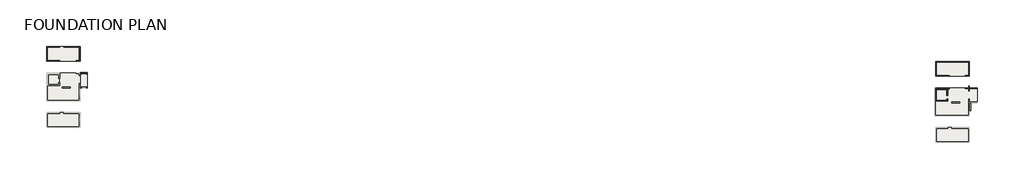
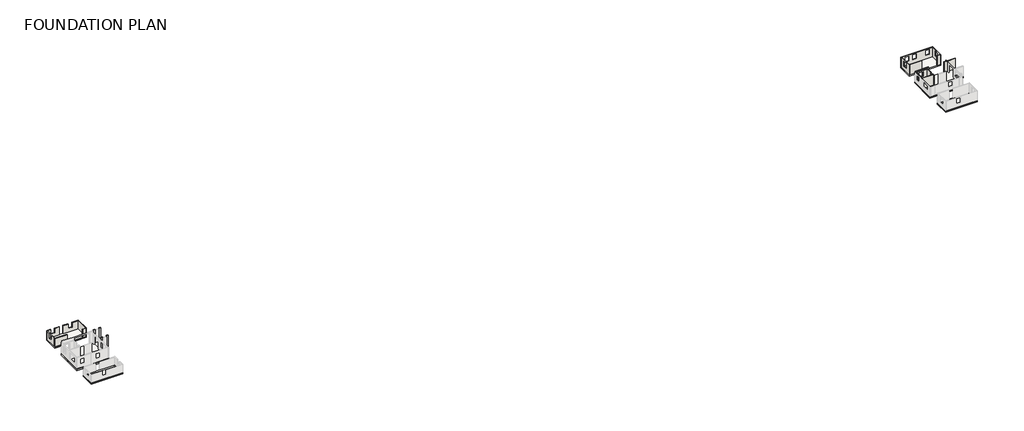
# One storey, part 2 of 2: 18 walls, 9 slabs, 4 columns, 4 proxies, 1 footing.
"""IFC4 building model written with IfcOpenShell, lengths in millimetres."""

from ifc_helpers import new_model, si_unit, frame, origin, origin_with_axes, place, context, project, spatial, polyline, outline, extrude, faceted_brep, element, save

model = new_model("IFC4")

# Units and contexts
model_context = context("Model", 3, world=origin())
ifc_project = project(units=[si_unit("LENGTHUNIT", "METRE", prefix="MILLI")], contexts=[model_context])

# Site, building, storey
site = spatial("IfcSite", under=ifc_project)
building = spatial("IfcBuilding", under=site)
storey = spatial("IfcBuildingStorey", under=building, Name="FOUNDATION PLAN", Elevation=0.0)

# Proxies
placement = place(None, origin())
element("IfcBuildingElementProxy", 1, Name="Thickened 24\" x 12\"", ObjectType="Thickened 24\" x 12\"", at=placement, inside=storey, context=model_context, shape_type="Brep", body=[
    faceted_brep([(7305.675, -2924.2155437, -304.8), (7610.475, -2619.4155437, -304.8), (7610.475, -2619.4155437, -101.6), (7102.475, -3127.4155437, -101.6), (9.525, -2619.4155437, -304.8), (314.325, -2924.2155437, -304.8), (517.525, -3127.4155437, -101.6), (9.525, -2619.4155437, -101.6)], [[[0, 1, 2, 3]], [[4, 5, 6, 7]], [[1, 4, 7, 2]], [[5, 0, 3, 6]], [[1, 0, 5, 4]], [[3, 2, 7, 6]]]),
])
element("IfcBuildingElementProxy", 2, Name="Thickened 24\" x 12\"", ObjectType="Thickened 24\" x 12\"", at=placement, inside=storey, context=model_context, shape_type="Brep", body=[
    faceted_brep([(314.325, -2924.2155437, -304.8), (9.525, -2619.4155437, -304.8), (9.525, -2619.4155437, -101.6), (517.525, -3127.4155437, -101.6), (9.525, -5953.1655549, -304.8), (9.525, -5953.1655549, -101.6), (314.325, -5648.3655549, -304.8), (517.525, -5445.1655549, -101.6), (7610.475, -5953.1655549, -101.6), (7610.475, -2619.4155437, -101.6), (7102.475, -3127.4155437, -101.6), (7102.475, -5445.1655549, -101.6), (7610.475, -5953.1655549, -304.8), (7305.675, -5648.3655549, -304.8), (7610.475, -2619.4155437, -304.8), (7305.675, -2924.2155437, -304.8)], [[[0, 1, 2, 3]], [[1, 4, 5, 2]], [[6, 0, 3, 7]], [[1, 0, 6, 4]], [[3, 2, 5, 8, 9, 10, 11, 7]], [[4, 12, 8, 5]], [[13, 6, 7, 11]], [[4, 6, 13, 12]], [[14, 15, 10, 9]], [[12, 14, 9, 8]], [[15, 13, 11, 10]], [[12, 13, 15, 14]]]),
    faceted_brep([(7610.475, 12474.1132667, -304.8), (9.525, 12474.1132667, -304.8), (9.525, 12474.1132667, -101.6), (7610.475, 12474.1132667, -101.6), (314.325, 12169.3132667, -304.8), (7305.675, 12169.3132667, -304.8), (7102.475, 11966.1132667, -101.6), (517.525, 11966.1132667, -101.6), (9.525, 9140.3632667, -101.6), (7610.475, 9140.3632667, -101.6), (7102.475, 9648.3632667, -101.6), (517.525, 9648.3632667, -101.6), (9.525, 9140.3632667, -304.8), (7610.475, 9140.3632667, -304.8), (7305.675, 9445.1632667, -304.8), (314.325, 9445.1632667, -304.8)], [[[0, 1, 2, 3]], [[4, 5, 6, 7]], [[0, 5, 4, 1]], [[3, 2, 8, 9], [7, 6, 10, 11]], [[12, 13, 9, 8]], [[14, 15, 11, 10]], [[12, 15, 14, 13]], [[13, 0, 3, 9]], [[5, 14, 10, 6]], [[5, 0, 13, 14]], [[1, 12, 8, 2]], [[15, 4, 7, 11]], [[15, 12, 1, 4]]]),
])
element("IfcBuildingElementProxy", 3, Name="Thickened 36\" x 18\"", ObjectType="Thickened 36\" x 18\"", at=placement, inside=storey, context=model_context, shape_type="Brep", body=[
    faceted_brep([(2978.15, 6391.2749888, -457.2), (3435.35, 5934.0749888, -457.2), (3790.95, 5578.4749888, -101.6), (2978.15, 6391.2749888, -101.6), (7610.475, 6391.2749888, -457.2), (7610.475, 6391.2749888, -101.6), (7153.275, 5934.0749888, -457.2), (6797.675, 5578.4749888, -101.6), (6797.675, 3048.0, -101.6), (6797.675, 822.325, -101.6), (822.325, 822.325, -101.6), (822.325, 2803.525, -101.6), (9.525, 3616.325, -101.6), (9.525, 9.525, -101.6), (7610.475, 9.525, -101.6), (7610.475, 3048.0, -101.6), (466.725, 3159.125, -457.2), (9.525, 3616.325, -457.2), (9.525, 9.525, -457.2), (466.725, 466.725, -457.2), (7610.475, 9.525, -457.2), (7153.275, 466.725, -457.2), (7610.475, 3048.0, -457.2), (7153.275, 3048.0, -457.2)], [[[0, 1, 2, 3]], [[4, 0, 3, 5]], [[1, 6, 7, 2]], [[4, 6, 1, 0]], [[3, 2, 7, 8, 9, 10, 11, 12, 13, 14, 15, 5]], [[16, 17, 12, 11]], [[17, 18, 13, 12]], [[19, 16, 11, 10]], [[17, 16, 19, 18]], [[18, 20, 14, 13]], [[21, 19, 10, 9]], [[18, 19, 21, 20]], [[20, 22, 15, 14]], [[23, 21, 9, 8]], [[20, 21, 23, 22]], [[22, 4, 5, 15]], [[6, 23, 8, 7]], [[6, 4, 22, 23]]]),
])
element("IfcBuildingElementProxy", 4, Name="Thickened 36\" x 18\"", ObjectType="Thickened 36\" x 18\"", at=placement, inside=storey, context=model_context, shape_type="Brep", body=[
    faceted_brep([(9.525, 3616.325, -457.2), (466.725, 3159.125, -457.2), (822.325, 2803.525, -101.6), (9.525, 3616.325, -101.6), (2978.15, 3616.325, -457.2), (2978.15, 3616.325, -101.6), (3435.35, 3159.125, -457.2), (3790.95, 2803.525, -101.6), (3790.95, 5578.4749888, -101.6), (2978.15, 6391.2749888, -101.6), (3435.35, 5934.0749888, -457.2), (2978.15, 6391.2749888, -457.2)], [[[0, 1, 2, 3]], [[4, 0, 3, 5]], [[1, 6, 7, 2]], [[4, 6, 1, 0]], [[3, 2, 7, 8, 9, 5]], [[10, 11, 9, 8]], [[11, 4, 5, 9]], [[6, 10, 8, 7]], [[6, 4, 11, 10]]]),
])

# Columns
element("IfcColumn", 5, ObjectType="Concrete-Rectangular-Column : 8 x 12", at=placement, inside=storey, context=model_context, shape_type="Brep", body=[
    faceted_brep([(7661.275, 6391.275, 3352.8), (7661.275, 6197.6, 3352.8), (7966.075, 6197.6, 3352.8), (7966.075, 6223.0, 3352.8), (7966.075, 6365.875, 3352.8), (7966.075, 6391.275, 3352.8), (7661.275, 6391.275, 0.0), (7966.075, 6391.275, 0.0), (7966.075, 6248.4, 0.0), (7966.075, 6197.6, 0.0), (7661.275, 6197.6, 0.0), (7966.075, 6391.275, 3149.6)], [[[0, 1, 2, 3, 4, 5]], [[6, 7, 8, 9, 10]], [[1, 0, 6, 10]], [[2, 1, 10, 9]], [[5, 4, 3, 2, 9, 8, 7, 11]], [[0, 5, 11, 7, 6]]]),
])
element("IfcColumn", 6, ObjectType="Concrete-Rectangular-Column : 8 x 12", at=placement, inside=storey, context=model_context, shape_type="Brep", body=[
    faceted_brep([(8982.075, 6391.275, 3352.8), (8982.075, 6365.875, 3352.8), (8982.075, 6223.0, 3352.8), (8982.075, 6197.6, 3352.8), (9286.875, 6197.6, 3352.8), (9286.875, 6391.275, 3352.8), (8982.075, 6391.275, 0.0), (9286.875, 6391.275, 0.0), (9286.875, 6197.6, 0.0), (8982.075, 6197.6, 0.0), (8982.075, 6248.4, 0.0), (8982.075, 6391.275, 3149.6)], [[[0, 1, 2, 3, 4, 5]], [[6, 7, 8, 9, 10]], [[3, 2, 1, 0, 11, 6, 10, 9]], [[4, 3, 9, 8]], [[5, 4, 8, 7]], [[0, 5, 7, 6, 11]]]),
])
element("IfcColumn", 7, ObjectType="Concrete-Rectangular-Column : 8 x 12", at=placement, inside=storey, context=model_context, shape_type="Brep", body=[
    faceted_brep([(7661.275, 3232.15, 3352.8), (7661.275, 3038.475, 3352.8), (7966.075, 3038.475, 3352.8), (7966.075, 3232.15, 3352.8), (7661.275, 3232.15, 0.0), (7966.075, 3232.15, 0.0), (7966.075, 3181.35, 0.0), (7966.075, 3038.475, 0.0), (7661.275, 3038.475, 0.0), (7966.075, 3038.475, 3149.6)], [[[0, 1, 2, 3]], [[4, 5, 6, 7, 8]], [[1, 0, 4, 8]], [[2, 1, 8, 7, 9]], [[3, 2, 9, 7, 6, 5]], [[0, 3, 5, 4]]]),
])
element("IfcColumn", 8, ObjectType="Concrete-Rectangular-Column : 8 x 12", at=placement, inside=storey, context=model_context, shape_type="Brep", body=[
    faceted_brep([(8982.075, 3232.15, 3352.8), (8982.075, 3038.475, 3352.8), (9286.875, 3038.475, 3352.8), (9286.875, 3232.15, 3352.8), (8982.075, 3232.15, 0.0), (9286.875, 3232.15, 0.0), (9286.875, 3038.475, 0.0), (8982.075, 3038.475, 0.0), (8982.075, 3181.35, 0.0), (8982.075, 3038.475, 3149.6)], [[[0, 1, 2, 3]], [[4, 5, 6, 7, 8]], [[1, 0, 4, 8, 7, 9]], [[2, 1, 9, 7, 6]], [[3, 2, 6, 5]], [[0, 3, 5, 4]]]),
])

# Footing
element("IfcFooting", 9, ObjectType="Bearing Footing - 36\" x 18\"", at=placement, inside=storey, context=model_context, shape_type="SweptSolid", body=[
    extrude(outline(polyline([(3302.0, 2667.0), (3302.0, 3581.4), (5689.6, 3581.4), (5689.6, 2667.0), (3302.0, 2667.0)])), frame((0.0, 0.0, -457.2), z_axis=(0.0, 0.0, 1.0), x_axis=(1.0, 0.0, 0.0)), (0.0, 0.0, 1.0), 457.2),
])

# Slabs
element("IfcSlab", 10, ObjectType="12\" Concrete", at=placement, inside=storey, context=model_context, shape_type="SweptSolid", body=[
    extrude(outline(polyline([(209635.3333898, 2990.7892742), (211464.1333898, 2990.7892742), (211464.1333898, -362.0107258), (209635.3333898, -362.0107258), (209635.3333898, -3390.9607258), (201748.6333898, -3390.9607258), (201748.6333898, 2990.7892742), (209635.3333898, 2990.7892742)])), frame((0.0, 0.0, -304.8), z_axis=(0.0, 0.0, 1.0), x_axis=(1.0, 0.0, 0.0)), (0.0, 0.0, 1.0), 304.8),
])
element("IfcSlab", 11, ObjectType="12\" Concrete", at=placement, inside=storey, context=model_context, shape_type="SweptSolid", body=[
    extrude(outline(polyline([(209635.3333898, -6019.9012695), (209635.3333898, -9372.7012695), (202015.3333898, -9372.7012695), (202015.3333898, -6019.9012695), (209635.3333898, -6019.9012695)])), frame((0.0, 0.0, -304.8), z_axis=(0.0, 0.0, 1.0), x_axis=(1.0, 0.0, 0.0)), (0.0, 0.0, 1.0), 304.8),
])
element("IfcSlab", 12, ObjectType="12\" Concrete", at=placement, inside=storey, context=model_context, shape_type="SweptSolid", body=[
    extrude(outline(polyline([(209635.3333898, 9073.6275409), (209635.3333898, 5720.8275409), (202015.3333898, 5720.8275409), (202015.3333898, 9073.6275409), (209635.3333898, 9073.6275409)])), frame((0.0, 0.0, -304.8), z_axis=(0.0, 0.0, 1.0), x_axis=(1.0, 0.0, 0.0)), (0.0, 0.0, 1.0), 304.8),
])
element("IfcSlab", 13, ObjectType="18\" Foundation Slab", at=placement, inside=storey, context=model_context, shape_type="SweptSolid", body=[
    extrude(outline(polyline([(9286.875, 6467.475), (9286.875, 2962.275), (7610.475, 2962.275), (7610.475, 6467.475), (9286.875, 6467.475)])), frame((0.0, 0.0, -457.2), z_axis=(0.0, 0.0, 1.0), x_axis=(1.0, 0.0, 0.0)), (0.0, 0.0, 1.0), 457.2),
])
element("IfcSlab", 14, ObjectType="18\" Foundation Slab", at=placement, inside=storey, context=model_context, shape_type="SweptSolid", body=[
    extrude(outline(polyline([(2978.15, 6391.2749888), (2978.15, 3616.325), (9.525, 3616.325), (9.525, 6391.2749888), (2978.15, 6391.2749888)])), frame((0.0, 0.0, -457.2), z_axis=(0.0, 0.0, 1.0), x_axis=(1.0, 0.0, 0.0)), (0.0, 0.0, 1.0), 457.2),
])
element("IfcSlab", 15, ObjectType="4\" Concrete", at=placement, inside=storey, context=model_context, shape_type="SweptSolid", body=[
    extrude(outline(polyline([(7610.475, 6391.2749888), (7610.475, 3048.0), (7610.475, 9.525), (9.525, 9.525), (9.525, 3616.325), (2978.15, 3616.325), (2978.15, 6391.2749888), (7610.475, 6391.2749888)])), frame((0.0, 0.0, -101.6), z_axis=(0.0, 0.0, 1.0), x_axis=(1.0, 0.0, 0.0)), (0.0, 0.0, 1.0), 101.6),
])
element("IfcSlab", 16, ObjectType="4\" Concrete", at=placement, inside=storey, context=model_context, shape_type="SweptSolid", body=[
    extrude(outline(polyline([(7610.475, -2619.4155437), (7610.475, -5953.1655549), (9.525, -5953.1655549), (9.525, -2619.4155437), (7610.475, -2619.4155437)])), frame((0.0, 0.0, -101.6), z_axis=(0.0, 0.0, 1.0), x_axis=(1.0, 0.0, 0.0)), (0.0, 0.0, 1.0), 101.6),
])
element("IfcSlab", 17, ObjectType="4\" Concrete", at=placement, inside=storey, context=model_context, shape_type="SweptSolid", body=[
    extrude(outline(polyline([(7610.475, 12474.1132667), (7610.475, 9140.3632667), (9.525, 9140.3632667), (9.525, 12474.1132667), (7610.475, 12474.1132667)])), frame((0.0, 0.0, -101.6), z_axis=(0.0, 0.0, 1.0), x_axis=(1.0, 0.0, 0.0)), (0.0, 0.0, 1.0), 101.6),
])
element("IfcSlab", 18, ObjectType="7\" Concrete", at=placement, inside=storey, context=model_context, shape_type="SweptSolid", body=[
    extrude(outline(polyline([(209482.9333898, -2343.2107258), (209482.9333898, -362.0107258), (209940.1333898, -362.0107258), (209940.1333898, -2343.2107258), (209482.9333898, -2343.2107258)])), frame((0.0, 0.0, 736.6), z_axis=(0.0, 0.0, 1.0), x_axis=(1.0, 0.0, 0.0)), (0.0, 0.0, 1.0), 177.8),
])

# Walls
element("IfcWall", 19, ObjectType="Exterior - 6\" Concrete", at=placement, inside=storey, context=model_context, shape_type="Brep", body=[
    faceted_brep([(209635.3333898, 2838.3892742, 0.0), (211387.9333898, 2838.3892742, 0.0), (211387.9333898, 2838.3892742, 2590.8), (209563.8958898, 2838.3892742, 2590.8), (209563.8958898, 2838.3892742, 2438.4), (209635.3333898, 2838.3892742, 2438.4), (209635.3333898, 2990.7892742, 0.0), (209635.3333898, 2990.7892742, 2438.4), (209563.8958898, 2990.7892742, 2438.4), (209563.8958898, 2990.7892742, 2590.8), (211387.9333898, 2990.7892742, 2590.8), (211387.9333898, 2990.7892742, 0.0), (209563.8958898, 2847.9142742, 2590.8), (209563.8958898, 2847.9142742, 2438.4)], [[[0, 1, 2, 3, 4, 5]], [[6, 7, 8, 9, 10, 11]], [[1, 0, 6, 11]], [[2, 1, 11, 10]], [[3, 2, 10, 9, 12]], [[4, 3, 12, 9, 8, 13]], [[4, 13, 8, 7, 5]], [[0, 5, 7, 6]]]),
])
element("IfcWall", 20, ObjectType="Generic - 6\" Masonry", at=placement, inside=storey, context=model_context, shape_type="Brep", body=[
    faceted_brep([(7467.6, 12474.1132667, 0.0), (7467.6, 12331.2382667, 0.0), (7467.6, 9283.2382667, 0.0), (7467.6, 9140.3632667, 0.0), (7467.6, 9140.3632667, 2032.0), (7467.6, 9283.2382667, 2032.0), (7467.6, 12331.2382667, 2032.0), (7467.6, 12474.1132667, 2032.0), (7610.475, 12474.1132667, 0.0), (7610.475, 12474.1132667, 2032.0), (7610.475, 12331.2382667, 2032.0), (7610.475, 9283.2382667, 2032.0), (7610.475, 9140.3632667, 2032.0), (7610.475, 9140.3632667, 0.0)], [[[0, 1, 2, 3, 4, 5, 6, 7]], [[8, 9, 10, 11, 12, 13]], [[3, 2, 1, 0, 8, 13]], [[7, 6, 5, 4, 12, 11, 10, 9]], [[0, 7, 9, 8]], [[4, 3, 13, 12]]]),
])
element("IfcWall", 21, ObjectType="Generic - 6\" Masonry", at=placement, inside=storey, context=model_context, shape_type="Brep", body=[
    faceted_brep([(7467.6, 12474.1132667, 2032.0), (7467.6, 12474.1132667, 0.0), (3924.3, 12474.1132667, 0.0), (3924.3, 12474.1132667, 2032.0), (5095.875, 12474.1132667, 2032.0), (5095.875, 12474.1132667, 914.4), (6010.275, 12474.1132667, 914.4), (6010.275, 12474.1132667, 2032.0), (7467.6, 12331.2382667, 0.0), (7467.6, 12331.2382667, 2032.0), (6010.275, 12331.2382667, 2032.0), (6010.275, 12331.2382667, 914.4), (5095.875, 12331.2382667, 914.4), (5095.875, 12331.2382667, 2032.0), (3924.3, 12331.2382667, 2032.0), (3924.3, 12331.2382667, 0.0)], [[[0, 1, 2, 3, 4, 5, 6, 7]], [[8, 9, 10, 11, 12, 13, 14, 15]], [[1, 0, 9, 8]], [[3, 2, 15, 14]], [[2, 1, 8, 15]], [[3, 14, 13, 4]], [[9, 0, 7, 10]], [[5, 12, 11, 6]], [[6, 11, 10, 7]], [[12, 5, 4, 13]]]),
    faceted_brep([(9.525, 12474.1132667, 0.0), (9.525, 12474.1132667, 2032.0), (923.925, 12474.1132667, 2032.0), (923.925, 12474.1132667, 914.4), (1838.325, 12474.1132667, 914.4), (1838.325, 12474.1132667, 2032.0), (3009.9, 12474.1132667, 2032.0), (3009.9, 12474.1132667, 0.0), (9.525, 12331.2382667, 2032.0), (9.525, 12331.2382667, 0.0), (152.4, 12331.2382667, 0.0), (3009.9, 12331.2382667, 0.0), (3009.9, 12331.2382667, 2032.0), (1838.325, 12331.2382667, 2032.0), (1838.325, 12331.2382667, 914.4), (923.925, 12331.2382667, 914.4), (923.925, 12331.2382667, 2032.0), (152.4, 12331.2382667, 2032.0)], [[[0, 1, 2, 3, 4, 5, 6, 7]], [[8, 9, 10, 11, 12, 13, 14, 15, 16, 17]], [[1, 0, 9, 8]], [[7, 6, 12, 11]], [[0, 7, 11, 10, 9]], [[6, 5, 13, 12]], [[5, 4, 14, 13]], [[3, 2, 16, 15]], [[4, 3, 15, 14]], [[2, 1, 8, 17, 16]]]),
])
element("IfcWall", 22, ObjectType="Generic - 6\" Masonry", at=placement, inside=storey, context=model_context, shape_type="Brep", body=[
    faceted_brep([(7467.6, 9283.2382667, 0.0), (6705.6, 9283.2382667, 0.0), (6705.6, 9283.2382667, 2032.0), (6705.6, 9283.2382667, 2032.4732556), (7467.6, 9283.2382667, 2032.4732556), (7467.6, 9283.2382667, 2032.0), (7467.6, 9140.3632667, 0.0), (7467.6, 9140.3632667, 2032.0), (7467.6, 9140.3632667, 2032.4732556), (6705.6, 9140.3632667, 2032.4732556), (6705.6, 9140.3632667, 2032.0), (6705.6, 9140.3632667, 0.0)], [[[0, 1, 2, 3, 4, 5]], [[6, 7, 8, 9, 10, 11]], [[1, 0, 6, 11]], [[3, 2, 1, 11, 10, 9]], [[4, 3, 9, 8]], [[0, 5, 4, 8, 7, 6]]]),
])
element("IfcWall", 23, ObjectType="Generic - 6\" Masonry", at=placement, inside=storey, context=model_context, shape_type="Brep", body=[
    faceted_brep([(9.525, 9140.3632667, 0.0), (3048.0, 9140.3632667, 0.0), (3048.0, 9140.3632667, 2032.0), (9.525, 9140.3632667, 2032.0), (9.525, 9283.2382667, 0.0), (9.525, 9283.2382667, 2032.0), (152.4, 9283.2382667, 2032.0), (3048.0, 9283.2382667, 2032.0), (3048.0, 9283.2382667, 0.0), (152.4, 9283.2382667, 0.0)], [[[0, 1, 2, 3]], [[4, 5, 6, 7, 8, 9]], [[1, 0, 4, 9, 8]], [[2, 1, 8, 7]], [[3, 2, 7, 6, 5]], [[0, 3, 5, 4]]]),
])
element("IfcWall", 24, ObjectType="Generic - 6\" Masonry", at=placement, inside=storey, context=model_context, shape_type="SweptSolid", body=[
    extrude(outline(polyline([(209635.3333898, 3447.9892742), (209635.3333898, 2990.7892742), (209492.4583898, 2990.7892742), (209492.4583898, 3447.9892742), (209635.3333898, 3447.9892742)])), origin_with_axes(), (0.0, 0.0, 1.0), 2438.4),
])
element("IfcWall", 25, ObjectType="Generic - 6\" Masonry", at=placement, inside=storey, context=model_context, shape_type="SweptSolid", body=[
    extrude(outline(polyline([(0.0, 208720.9333898), (0.0, 209492.4583898), (2438.4, 209492.4583898), (2438.4, 209563.8958898), (2590.8, 209563.8958898), (2590.8, 208720.9333898), (0.0, 208720.9333898)])), frame((0.0, 2847.9142742, 0.0), z_axis=(0.0, 1.0, 0.0), x_axis=(0.0, 0.0, 1.0)), (0.0, 0.0, 1.0), 142.875),
])
element("IfcWall", 26, ObjectType="Generic - 6\" Masonry", at=placement, inside=storey, context=model_context, shape_type="Brep", body=[
    faceted_brep([(209492.4583898, 9073.6275409, 0.0), (209492.4583898, 8930.7525409, 0.0), (209492.4583898, 5863.7025409, 0.0), (209492.4583898, 5720.8275409, 0.0), (209492.4583898, 5720.8275409, 2438.4), (209492.4583898, 5863.7025409, 2438.4), (209492.4583898, 8930.7525409, 2438.4), (209492.4583898, 9073.6275409, 2438.4), (209492.4583898, 7854.4275409, 2133.6), (209492.4583898, 6940.0275409, 2133.6), (209492.4583898, 6940.0275409, 914.4), (209492.4583898, 7854.4275409, 914.4), (209635.3333898, 5720.8275409, 0.0), (209635.3333898, 9073.6275409, 0.0), (209635.3333898, 9073.6275409, 2438.4), (209635.3333898, 5720.8275409, 2438.4), (209635.3333898, 6940.0275409, 2133.6), (209635.3333898, 7854.4275409, 2133.6), (209635.3333898, 7854.4275409, 914.4), (209635.3333898, 6940.0275409, 914.4)], [[[0, 1, 2, 3, 4, 5, 6, 7], [8, 9, 10, 11]], [[12, 13, 14, 15], [16, 17, 18, 19]], [[3, 2, 1, 0, 13, 12]], [[7, 6, 5, 4, 15, 14]], [[0, 7, 14, 13]], [[4, 3, 12, 15]], [[8, 17, 16, 9]], [[10, 19, 18, 11]], [[17, 8, 11, 18]], [[9, 16, 19, 10]]]),
])
element("IfcWall", 27, ObjectType="Generic - 6\" Masonry", at=placement, inside=storey, context=model_context, shape_type="Brep", body=[
    faceted_brep([(209492.4583898, 9073.6275409, 0.0), (202015.3333898, 9073.6275409, 0.0), (202015.3333898, 9073.6275409, 2438.4), (209492.4583898, 9073.6275409, 2438.4), (208720.9333898, 9073.6275409, 2133.6), (207806.5333898, 9073.6275409, 2133.6), (207806.5333898, 9073.6275409, 914.4), (208720.9333898, 9073.6275409, 914.4), (203844.1333898, 9073.6275409, 2133.6), (202929.7333898, 9073.6275409, 2133.6), (202929.7333898, 9073.6275409, 914.4), (203844.1333898, 9073.6275409, 914.4), (205622.1333898, 9073.6275409, 2133.6), (204707.7333898, 9073.6275409, 2133.6), (204707.7333898, 9073.6275409, 914.4), (205622.1333898, 9073.6275409, 914.4), (202015.3333898, 8930.7525409, 0.0), (202158.2083898, 8930.7525409, 0.0), (209492.4583898, 8930.7525409, 0.0), (209492.4583898, 8930.7525409, 2438.4), (202158.2083898, 8930.7525409, 2438.4), (202015.3333898, 8930.7525409, 2438.4), (207806.5333898, 8930.7525409, 2133.6), (208720.9333898, 8930.7525409, 2133.6), (208720.9333898, 8930.7525409, 914.4), (207806.5333898, 8930.7525409, 914.4), (202929.7333898, 8930.7525409, 2133.6), (203844.1333898, 8930.7525409, 2133.6), (203844.1333898, 8930.7525409, 914.4), (202929.7333898, 8930.7525409, 914.4), (204707.7333898, 8930.7525409, 2133.6), (205622.1333898, 8930.7525409, 2133.6), (205622.1333898, 8930.7525409, 914.4), (204707.7333898, 8930.7525409, 914.4)], [[[0, 1, 2, 3], [4, 5, 6, 7], [8, 9, 10, 11], [12, 13, 14, 15]], [[16, 17, 18, 19, 20, 21], [22, 23, 24, 25], [26, 27, 28, 29], [30, 31, 32, 33]], [[1, 0, 18, 17, 16]], [[3, 2, 21, 20, 19]], [[0, 3, 19, 18]], [[2, 1, 16, 21]], [[4, 23, 22, 5]], [[6, 25, 24, 7]], [[23, 4, 7, 24]], [[5, 22, 25, 6]], [[8, 27, 26, 9]], [[10, 29, 28, 11]], [[27, 8, 11, 28]], [[9, 26, 29, 10]], [[12, 31, 30, 13]], [[14, 33, 32, 15]], [[31, 12, 15, 32]], [[13, 30, 33, 14]]]),
])
element("IfcWall", 28, ObjectType="Generic - 6\" Masonry", at=placement, inside=storey, context=model_context, shape_type="SweptSolid", body=[
    extrude(outline(polyline([(208720.9333898, 5863.7025409), (209492.4583898, 5863.7025409), (209492.4583898, 5720.8275409), (208720.9333898, 5720.8275409), (208720.9333898, 5863.7025409)])), origin_with_axes(), (0.0, 0.0, 1.0), 2438.4),
])
element("IfcWall", 29, ObjectType="Generic - 6\" Masonry", at=placement, inside=storey, context=model_context, shape_type="Brep", body=[
    faceted_brep([(202015.3333898, 8930.7525409, 0.0), (202015.3333898, 5720.8275409, 0.0), (202015.3333898, 5720.8275409, 2438.4), (202015.3333898, 8930.7525409, 2438.4), (202015.3333898, 7854.4275409, 2133.6), (202015.3333898, 6940.0275409, 2133.6), (202015.3333898, 6940.0275409, 914.4), (202015.3333898, 7854.4275409, 914.4), (202158.2083898, 5720.8275409, 0.0), (202158.2083898, 5863.7025409, 0.0), (202158.2083898, 8930.7525409, 0.0), (202158.2083898, 8930.7525409, 2438.4), (202158.2083898, 5863.7025409, 2438.4), (202158.2083898, 5720.8275409, 2438.4), (202158.2083898, 6940.0275409, 2133.6), (202158.2083898, 7854.4275409, 2133.6), (202158.2083898, 7854.4275409, 914.4), (202158.2083898, 6940.0275409, 914.4)], [[[0, 1, 2, 3], [4, 5, 6, 7]], [[8, 9, 10, 11, 12, 13], [14, 15, 16, 17]], [[1, 0, 10, 9, 8]], [[3, 2, 13, 12, 11]], [[0, 3, 11, 10]], [[2, 1, 8, 13]], [[4, 15, 14, 5]], [[6, 17, 16, 7]], [[15, 4, 7, 16]], [[5, 14, 17, 6]]]),
])
element("IfcWall", 30, ObjectType="Generic - 6\" Masonry", at=placement, inside=storey, context=model_context, shape_type="SweptSolid", body=[
    extrude(outline(polyline([(205063.3333898, 5720.8275409), (202158.2083898, 5720.8275409), (202158.2083898, 5863.7025409), (205063.3333898, 5863.7025409), (205063.3333898, 5720.8275409)])), origin_with_axes(), (0.0, 0.0, 1.0), 2438.4),
])
element("IfcWall", 31, ObjectType="Generic - 6\" Masonry", at=placement, inside=storey, context=model_context, shape_type="SweptSolid", body=[
    extrude(outline(polyline([(12331.2382667, 0.0), (9283.2382667, 0.0), (9283.2382667, 2032.0), (10340.5133062, 2032.0), (10340.5133062, 914.4), (11254.9133062, 914.4), (11254.9133062, 2032.0), (12331.2382667, 2032.0), (12331.2382667, 0.0)])), frame((9.525, 0.0, 0.0), z_axis=(1.0, 0.0, 0.0), x_axis=(0.0, 1.0, 0.0)), (0.0, 0.0, 1.0), 142.875),
])
element("IfcWall", 32, ObjectType="Generic - 8\" Masonry", at=placement, inside=storey, context=model_context, shape_type="Brep", body=[
    faceted_brep([(204523.5833898, 3.1142629, 0.0), (204523.5833898, 3.1142629, 2438.4), (204523.5833898, 492.0642742, 2438.4), (204523.5833898, 492.0642742, 0.0), (204523.5833898, 196.7892629, 0.0), (204717.2583898, 3.1142629, 2438.4), (204717.2583898, 3.1142629, 0.0), (204717.2583898, 492.0642742, 0.0), (204717.2583898, 492.0642742, 2438.4)], [[[0, 1, 2, 3, 4]], [[5, 6, 7, 8]], [[6, 0, 4, 3, 7]], [[1, 5, 8, 2]], [[1, 0, 6, 5]], [[3, 2, 8, 7]]]),
    faceted_brep([(204523.5833898, 2828.8642629, 2438.4), (204523.5833898, 2828.8642629, 0.0), (204523.5833898, 2635.1892629, 0.0), (204523.5833898, 1314.3892742, 0.0), (204523.5833898, 1314.3892742, 2438.4), (204523.5833898, 2635.1892629, 2438.4), (204717.2583898, 2828.8642629, 0.0), (204717.2583898, 2828.8642629, 2438.4), (204717.2583898, 1314.3892742, 2438.4), (204717.2583898, 1314.3892742, 0.0)], [[[0, 1, 2, 3, 4, 5]], [[6, 7, 8, 9]], [[1, 6, 9, 3, 2]], [[7, 0, 5, 4, 8]], [[1, 0, 7, 6]], [[4, 3, 9, 8]]]),
])
element("IfcWall", 33, ObjectType="Generic - 8\" Masonry", at=placement, inside=storey, context=model_context, shape_type="Brep", body=[
    faceted_brep([(204523.5833898, 196.7892629, 0.0), (202085.1833898, 196.7892629, 0.0), (201891.5083898, 196.7892629, 0.0), (201891.5083898, 196.7892629, 2438.4), (201891.5083898, 196.7892629, 2590.8), (204523.5833898, 196.7892629, 2590.8), (204523.5833898, 3.1142629, 0.0), (204523.5833898, 3.1142629, 2438.4), (204523.5833898, 3.1142629, 2590.8), (201891.5083898, 3.1142629, 2590.8), (201891.5083898, 3.1142629, 0.0)], [[[0, 1, 2, 3, 4, 5]], [[6, 7, 8, 9, 10]], [[2, 1, 0, 6, 10]], [[5, 4, 9, 8]], [[0, 5, 8, 7, 6]], [[4, 3, 2, 10, 9]]]),
])
element("IfcWall", 34, ObjectType="Generic - 8\" Masonry", at=placement, inside=storey, context=model_context, shape_type="Brep", body=[
    faceted_brep([(202085.1833898, 196.7892629, 0.0), (202085.1833898, 2635.1892629, 0.0), (202085.1833898, 2828.8642629, 0.0), (202085.1833898, 2828.8642629, 2438.4), (202085.1833898, 2635.1892629, 2438.4), (202085.1833898, 196.7892629, 2438.4), (202085.1833898, 1314.3892742, 2133.6), (202085.1833898, 2228.7892742, 2133.6), (202085.1833898, 2228.7892742, 914.4), (202085.1833898, 1314.3892742, 914.4), (201891.5083898, 2828.8642629, 0.0), (201891.5083898, 196.7892629, 0.0), (201891.5083898, 196.7892629, 2438.4), (201891.5083898, 2828.8642629, 2438.4), (201891.5083898, 2228.7892742, 2133.6), (201891.5083898, 1314.3892742, 2133.6), (201891.5083898, 1314.3892742, 914.4), (201891.5083898, 2228.7892742, 914.4)], [[[0, 1, 2, 3, 4, 5], [6, 7, 8, 9]], [[10, 11, 12, 13], [14, 15, 16, 17]], [[2, 1, 0, 11, 10]], [[5, 4, 3, 13, 12]], [[0, 5, 12, 11]], [[3, 2, 10, 13]], [[6, 15, 14, 7]], [[8, 17, 16, 9]], [[15, 6, 9, 16]], [[7, 14, 17, 8]]]),
])
element("IfcWall", 35, ObjectType="Generic - 8\" Masonry", at=placement, inside=storey, context=model_context, shape_type="SweptSolid", body=[
    extrude(outline(polyline([(0.0, 202085.1833898), (0.0, 204523.5833898), (2438.4, 204523.5833898), (2438.4, 202085.1833898), (0.0, 202085.1833898)]), holes=[polyline([(914.4, 203577.4333898), (914.4, 202637.6333898), (2133.6, 202637.6333898), (2133.6, 203577.4333898), (914.4, 203577.4333898)])]), frame((0.0, 2635.1892629, 0.0), z_axis=(0.0, 1.0, 0.0), x_axis=(0.0, 0.0, 1.0)), (0.0, 0.0, 1.0), 193.675),
])
element("IfcWall", 36, ObjectType="Generic - 8\" Masonry Break Out", at=placement, inside=storey, context=model_context, shape_type="Brep", body=[
    faceted_brep([(201891.5083898, 2797.1142742, 2590.8), (201891.5083898, 2797.1142742, 0.0), (205063.3333898, 2797.1142742, 0.0), (205063.3333898, 2797.1142742, 2590.8), (202663.0333898, 2797.1142742, 2133.6), (203577.4333898, 2797.1142742, 2133.6), (203577.4333898, 2797.1142742, 914.4), (202663.0333898, 2797.1142742, 914.4), (201891.5083898, 2990.7892742, 0.0), (201891.5083898, 2990.7892742, 2438.4), (201891.5083898, 2990.7892742, 2590.8), (205063.3333898, 2990.7892742, 2590.8), (205063.3333898, 2990.7892742, 0.0), (203577.4333898, 2990.7892742, 2133.6), (202663.0333898, 2990.7892742, 2133.6), (202663.0333898, 2990.7892742, 914.4), (203577.4333898, 2990.7892742, 914.4)], [[[0, 1, 2, 3], [4, 5, 6, 7]], [[8, 9, 10, 11, 12], [13, 14, 15, 16]], [[1, 8, 12, 2]], [[10, 0, 3, 11]], [[4, 14, 13, 5]], [[6, 16, 15, 7]], [[14, 4, 7, 15]], [[5, 13, 16, 6]], [[3, 2, 12, 11]], [[1, 0, 10, 9, 8]]]),
])

save(model, "model.ifc")
